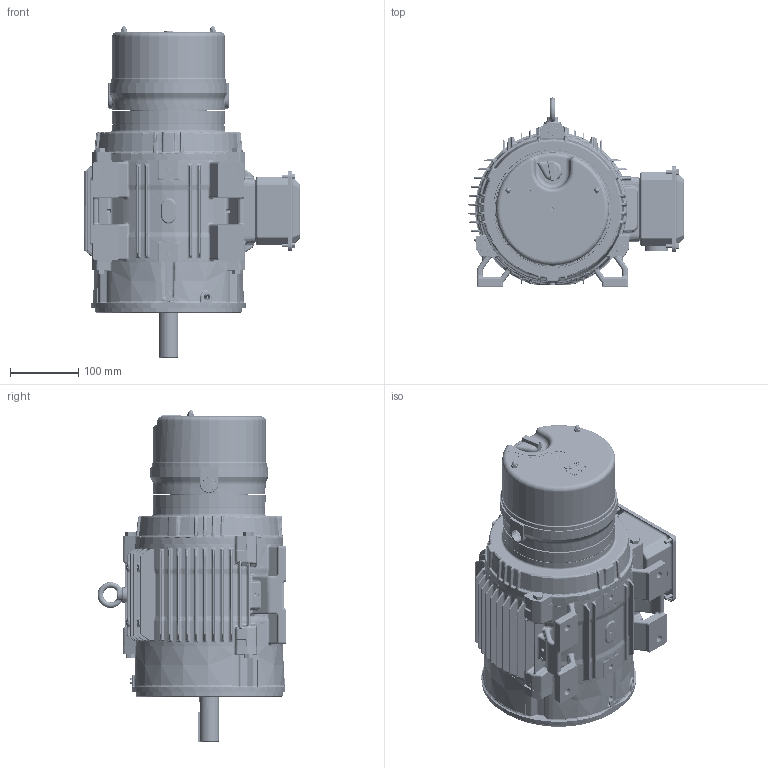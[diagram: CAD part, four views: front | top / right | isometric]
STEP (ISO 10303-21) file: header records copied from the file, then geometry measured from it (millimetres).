
FILE_DESCRIPTION (( 'STEP AP203' ), '1' );
FILE_NAME ('SS621250-100_RevB.STEP', '2022-11-29T13:16:56', ( '' ), ( '' ), 'SwSTEP 2.0', 'SolidWorks 2021', '' );
FILE_SCHEMA (( 'CONFIG_CONTROL_DESIGN' ));
Length unit declared in the file: inch
Products named in the file (1): SS621250-100_RevB
Bounding box: 316.73 x 277.54 x 487.73 mm (x, y, z)
Volume: 3788341.8 mm3; surface area: 1259264.3 mm2
Topology: 40 solids, 40 shells, 7618 faces, 18395 edges, 10662 vertices
Faces by surface type: bspline 2828, cylinder 1758, plane 1269, torus 909, cone 579, sphere 275
Entity records: 316597 total; most frequent: CARTESIAN_POINT 160991, ORIENTED_EDGE 36096, DIRECTION 28186, EDGE_CURVE 18048, AXIS2_PLACEMENT_3D 11708, VERTEX_POINT 10653, EDGE_LOOP 7929, ADVANCED_FACE 7618
